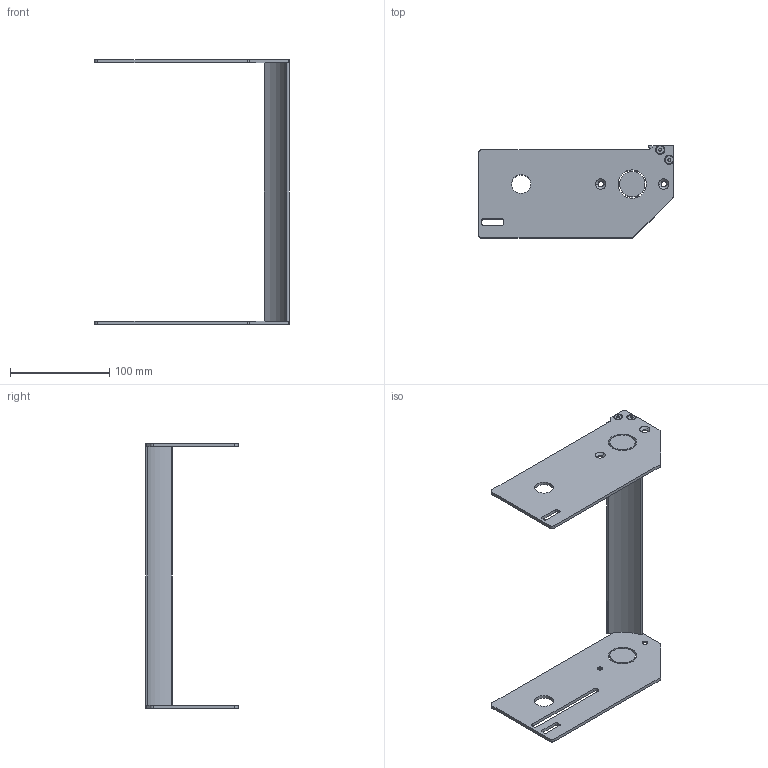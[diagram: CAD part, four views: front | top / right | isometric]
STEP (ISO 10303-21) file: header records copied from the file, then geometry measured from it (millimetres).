
FILE_DESCRIPTION((''),'2;1');
FILE_NAME('27M3301-12_ASM','2020-02-26T',('james.horst'),(''),'PRO/ENGINEER BY PARAMETRIC TECHNOLOGY CORPORATION, 2012420','PRO/ENGINEER BY PARAMETRIC TECHNOLOGY CORPORATION, 2012420','');
FILE_SCHEMA(('CONFIG_CONTROL_DESIGN'));
Length unit declared in the file: inch
Products named in the file (8): 350539-10; 350538_1_1; 350537_1_1; 9304XXM_930410M_1_1; ASM0002_ASM_1_ASM_1_ASM; 351040-08_ASM_1_ASM_1_ASM; 27M3301-08_ASM_1_ASM; 27M3301-12_ASM
Assembly tree (10 placements, depth 5):
  27M3301-12_ASM
    27M3301-08_ASM_1_ASM
      351040-08_ASM_1_ASM_1_ASM
        ASM0002_ASM_1_ASM_1_ASM
          350539-10
          350538_1_1
          350537_1_1
          9304XXM_930410M_1_1  x4
Bounding box: 196.06 x 92.74 x 266.34 mm (x, y, z)
Volume: 173090.7 mm3; surface area: 99477.4 mm2
Topology: 7 solids, 11 shells, 227 faces, 565 edges, 356 vertices
Faces by surface type: cylinder 87, plane 80, cone 60
Entity records: 5413 total; most frequent: CARTESIAN_POINT 996, DIRECTION 974, ORIENTED_EDGE 832, EDGE_CURVE 424, AXIS2_PLACEMENT_3D 380, VERTEX_POINT 278, VECTOR 214, LINE 214
